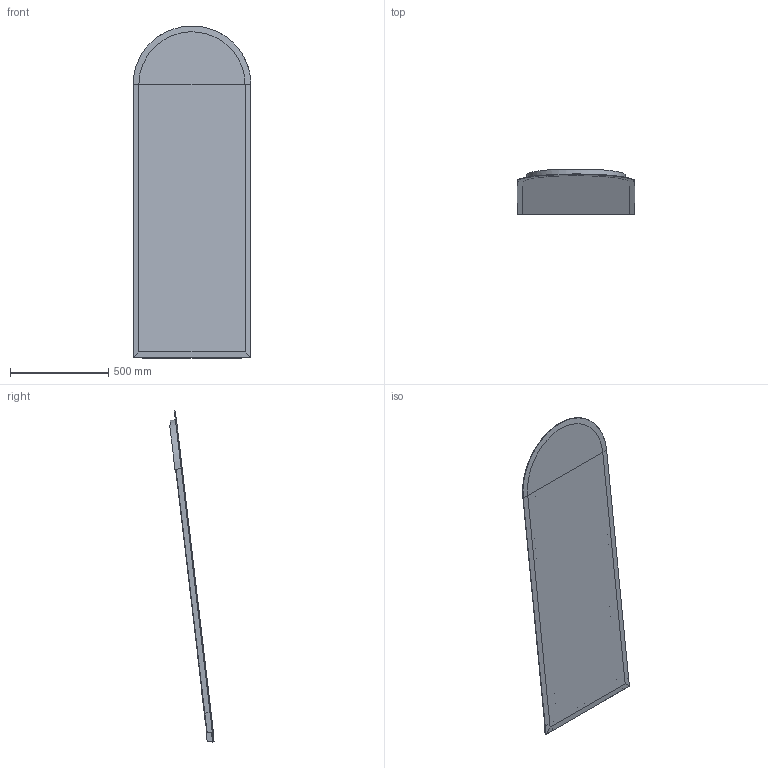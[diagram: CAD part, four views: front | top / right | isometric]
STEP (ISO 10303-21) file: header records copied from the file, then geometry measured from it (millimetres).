
FILE_DESCRIPTION(/* description */ (''),/* implementation_level */ '2;1');
FILE_NAME(/* name */ '3DMODE~1',/* time_stamp */ '2023-08-28T13:26:49+02:00',/* author */ (''),/* organization */ (''),/* preprocessor_version */ 'ST-DEVELOPER v16.5',/* originating_system */ '',/* authorisation */ '');
FILE_SCHEMA (('AUTOMOTIVE_DESIGN'));
Length unit declared in the file: millimetre
Products named in the file (1): Document
Bounding box: 600 x 223.97 x 1689.18 mm (x, y, z)
Volume: 11035432.7 mm3; surface area: 3718271.7 mm2
Topology: 8 solids, 9 shells, 96 faces, 209 edges, 130 vertices
Faces by surface type: plane 88, bspline 8
Entity records: 2439 total; most frequent: CARTESIAN_POINT 883, ORIENTED_EDGE 414, EDGE_CURVE 209, B_SPLINE_CURVE_WITH_KNOTS 194, VERTEX_POINT 130, ADVANCED_FACE 96, FACE_OUTER_BOUND 96, EDGE_LOOP 96
